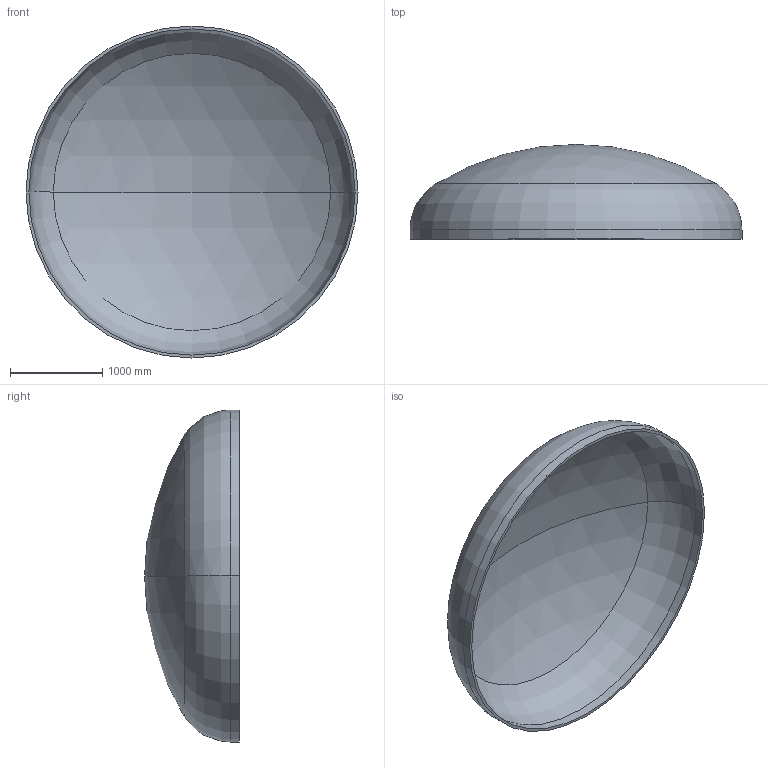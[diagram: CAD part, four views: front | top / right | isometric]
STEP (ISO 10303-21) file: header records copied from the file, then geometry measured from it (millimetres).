
FILE_DESCRIPTION (( 'STEP AP203' ), '1' );
FILE_NAME ('DIN 28013 Korbbogenform_-_Boden DIN 28013 - 3600 x 100 - I - s=31.step', '2016-07-01T20:18:34', ( '' ), ( '' ), 'SwSTEP 2.0', 'SolidWorks 2013', '' );
FILE_SCHEMA (( 'CONFIG_CONTROL_DESIGN' ));
Length unit declared in the file: millimetre
Products named in the file (1): DIN 28013 Korbbogenform_-_Boden DIN 28013 - 3600 x 100 - I - s=31
Bounding box: 3600 x 1028.12 x 3600 mm (x, y, z)
Volume: 466923482.3 mm3; surface area: 30473679.8 mm2
Topology: 1 solids, 1 shells, 13 faces, 24 edges, 14 vertices
Faces by surface type: torus 4, cylinder 4, sphere 4, plane 1
Entity records: 407 total; most frequent: DIRECTION 72, CARTESIAN_POINT 52, ORIENTED_EDGE 48, AXIS2_PLACEMENT_3D 34, EDGE_CURVE 24, CIRCLE 20, EDGE_LOOP 14, VERTEX_POINT 14
